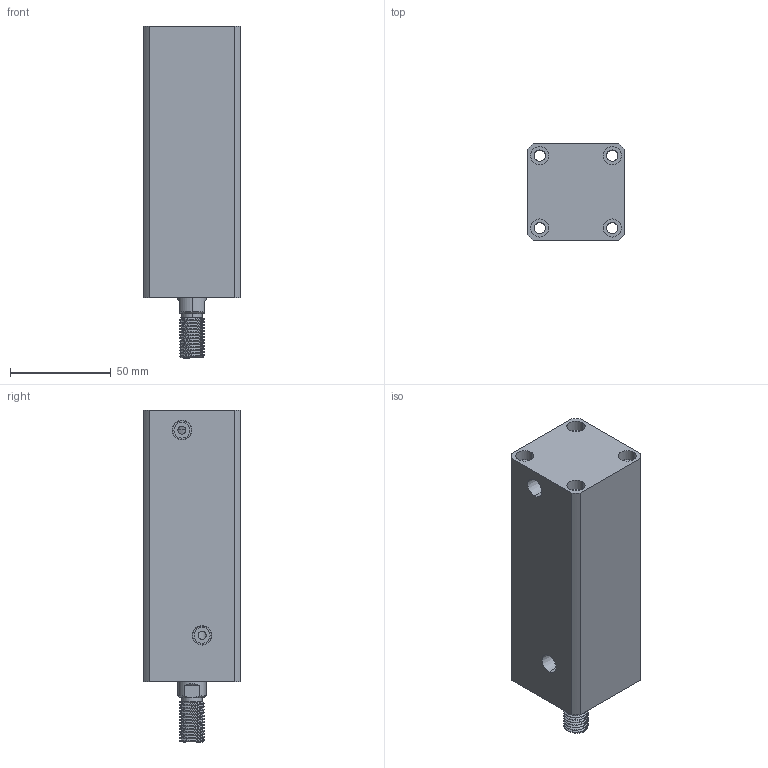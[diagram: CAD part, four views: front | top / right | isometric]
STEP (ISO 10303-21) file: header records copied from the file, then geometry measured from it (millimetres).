
FILE_DESCRIPTION (( 'STEP AP214' ), '1' );
FILE_NAME ('chtb-sd25x90w_asm.STEP', '2018-05-22T09:46:00', ( 'Windows' ), ( 'Microsoft' ), 'SwSTEP 2.0', 'SolidWorks 2015', '' );
FILE_SCHEMA (( 'AUTOMOTIVE_DESIGN' ));
Length unit declared in the file: millimetre
Products named in the file (4): CHTB-SD25X90WHSG; CHTB-SD25X90NBT; CHTB-25QG; chtb-sd25x90w_asm
Assembly tree (3 placements, depth 2):
  chtb-sd25x90w_asm
    CHTB-25QG
    CHTB-SD25X90NBT
    CHTB-SD25X90WHSG
Bounding box: 48 x 48 x 165 mm (x, y, z)
Volume: 264855.8 mm3; surface area: 64376 mm2
Topology: 3 solids, 3 shells, 178 faces, 474 edges, 323 vertices
Faces by surface type: cylinder 113, plane 39, cone 14, bspline 12
Entity records: 10610 total; most frequent: CARTESIAN_POINT 6273, ORIENTED_EDGE 940, DIRECTION 778, EDGE_CURVE 470, VERTEX_POINT 323, AXIS2_PLACEMENT_3D 317, EDGE_LOOP 217, FACE_OUTER_BOUND 178
